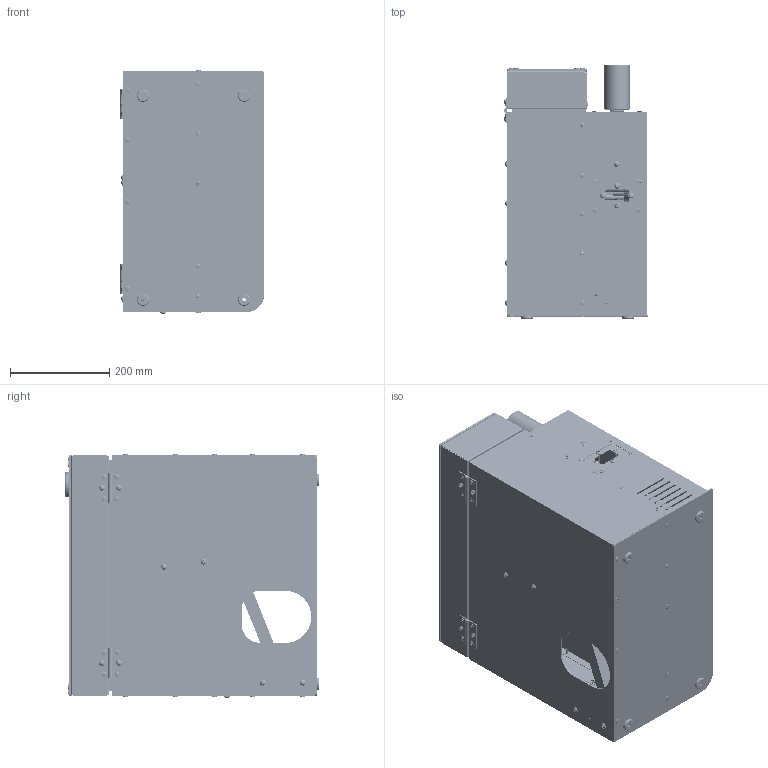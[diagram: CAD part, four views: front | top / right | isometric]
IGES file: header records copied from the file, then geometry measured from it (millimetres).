
Global section: file name: OxyGEN-IP V14.4; native system: unknown; preprocessor: unknown; author: unknown; organization: unknown; date: 20200408.194543; units: millimetre
Bounding box: 289.49 x 511 x 490.8 mm (x, y, z)
Volume: 4366652.7 mm3; surface area: 3391639.1 mm2
Topology: 185 solids, 217 shells, 7283 faces, 20280 edges, 13428 vertices
Faces by surface type: bspline 7283
